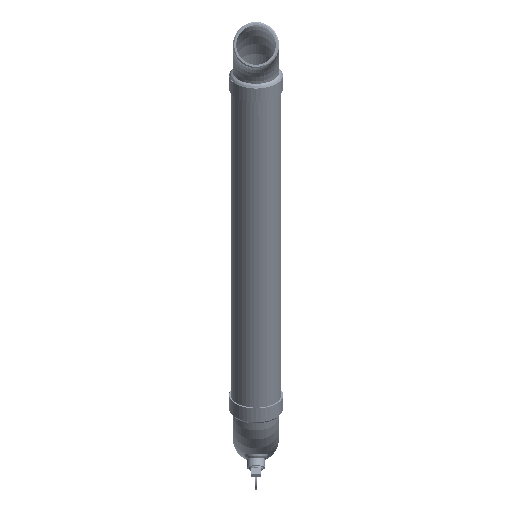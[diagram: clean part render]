
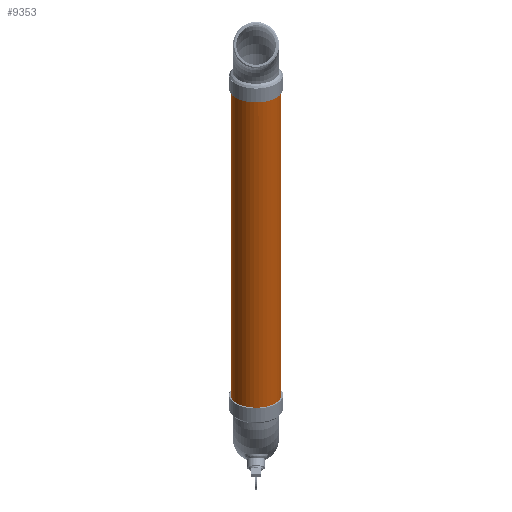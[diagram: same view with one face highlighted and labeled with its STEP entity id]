
A CAD part, front view. The second image highlights one B-rep face of the part: STEP entity #9353.
In plain terms, the highlighted cylindrical face has radius 40.284 mm (diameter 80.569 mm), a full revolution.
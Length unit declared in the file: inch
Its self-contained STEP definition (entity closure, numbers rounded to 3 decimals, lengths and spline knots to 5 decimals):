
#9326=CARTESIAN_POINT('',(0.0,0.0,0.0));
#9327=DIRECTION('',(0.0,0.0,1.0));
#9328=DIRECTION('',(-1.0,0.0,0.0));
#9329=AXIS2_PLACEMENT_3D('',#9326,#9327,#9328);
#9330=CYLINDRICAL_SURFACE('',#9329,1.586);
#9331=CARTESIAN_POINT('',(1.586,0.,24.027));
#9332=VERTEX_POINT('',#9331);
#9333=CARTESIAN_POINT('',(0.0,0.0,24.027));
#9334=DIRECTION('',(0.0,0.0,-1.0));
#9335=DIRECTION('',(-1.0,0.0,0.0));
#9336=AXIS2_PLACEMENT_3D('',#9333,#9334,#9335);
#9337=CIRCLE('',#9336,1.586);
#9338=EDGE_CURVE('',#9332,#9332,#9337,.T.);
#9339=ORIENTED_EDGE('',*,*,#9338,.T.);
#9340=EDGE_LOOP('',(#9339));
#9341=FACE_OUTER_BOUND('',#9340,.T.);
#9342=CARTESIAN_POINT('',(1.586,0.,0.0));
#9343=VERTEX_POINT('',#9342);
#9344=CARTESIAN_POINT('',(0.0,0.0,0.0));
#9345=DIRECTION('',(0.0,0.0,-1.0));
#9346=DIRECTION('',(-1.0,0.0,0.0));
#9347=AXIS2_PLACEMENT_3D('',#9344,#9345,#9346);
#9348=CIRCLE('',#9347,1.586);
#9349=EDGE_CURVE('',#9343,#9343,#9348,.T.);
#9350=ORIENTED_EDGE('',*,*,#9349,.F.);
#9351=EDGE_LOOP('',(#9350));
#9352=FACE_BOUND('',#9351,.T.);
#9353=ADVANCED_FACE('',(#9341,#9352),#9330,.T.);
